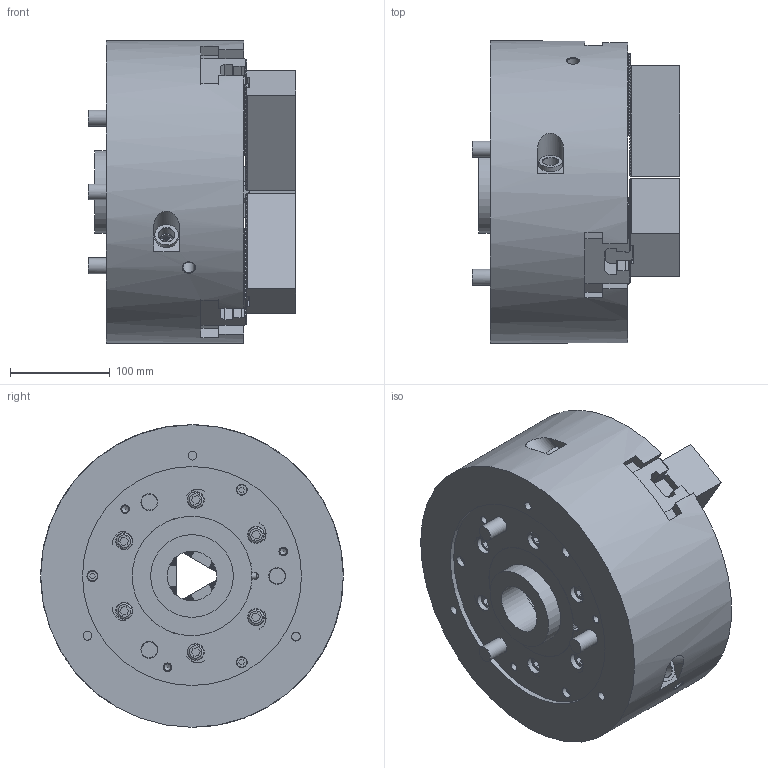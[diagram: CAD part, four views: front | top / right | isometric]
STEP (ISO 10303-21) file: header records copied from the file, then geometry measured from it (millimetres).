
FILE_DESCRIPTION (( 'STEP AP214' ), '1' );
FILE_NAME ('BL-212_61P275983-0_OC.STEP', '2020-03-29T23:15:01', ( '' ), ( '' ), 'SwSTEP 2.0', 'SolidWorks 2017', '' );
FILE_SCHEMA (( 'AUTOMOTIVE_DESIGN' ));
Length unit declared in the file: millimetre
Products named in the file (18): 61P318349 ソフトジョー_W_‡_[; 61P417264 T僫僢僩b_g; 俛傾僫僣僉 M16x4016x40; 61P318349 ソフトジョー_W_‡_[_ﾃﾞﾌｫﾙﾄ_ATI≪UA; BL-212_61P275983-0_OC; 俛傾僫僣僉 M16x4016x40_B迸路 M16X4016X40; Part1^61P228037_BL212_ASSY; Part1^61P228037_BL212_ASSY_蹬怮椔; 61P417264 T僫僢僩b_g_棉太倌佱UA
Assembly tree (13 placements, depth 2):
  61P318349 ソフトジョー_W_‡_[
  61P417264 T僫僢僩b_g
  俛傾僫僣僉 M16x4016x40
  61P417264 T僫僢僩b_g
  俛傾僫僣僉 M16x4016x40
Bounding box: 208.2 x 304 x 304 mm (x, y, z)
Volume: 10013503 mm3; surface area: 573371.4 mm2
Topology: 13 solids, 25 shells, 3525 faces, 9952 edges, 6603 vertices
Faces by surface type: plane 3209, cylinder 184, bspline 72, cone 44, torus 9, sphere 7
Full cylindrical faces by diameter (mm): 1.9 x3, 6 x1, 6.8 x3, 8 x3, 8.8 x3, 9 x3, 10 x12, 11 x9, 12 x2, 14 x3, 16 x30, 17 x15, 23.5 x3, 24 x12, 25 x9, 50 x1, 63 x1, 67 x1, 76 x1, 83 x1, 220 x1, 304 x1
Entity records: 80323 total; most frequent: CARTESIAN_POINT 17302, ORIENTED_EDGE 13442, DIRECTION 11833, EDGE_CURVE 6721, VECTOR 6077, LINE 6077, VERTEX_POINT 4519, AXIS2_PLACEMENT_3D 2878
